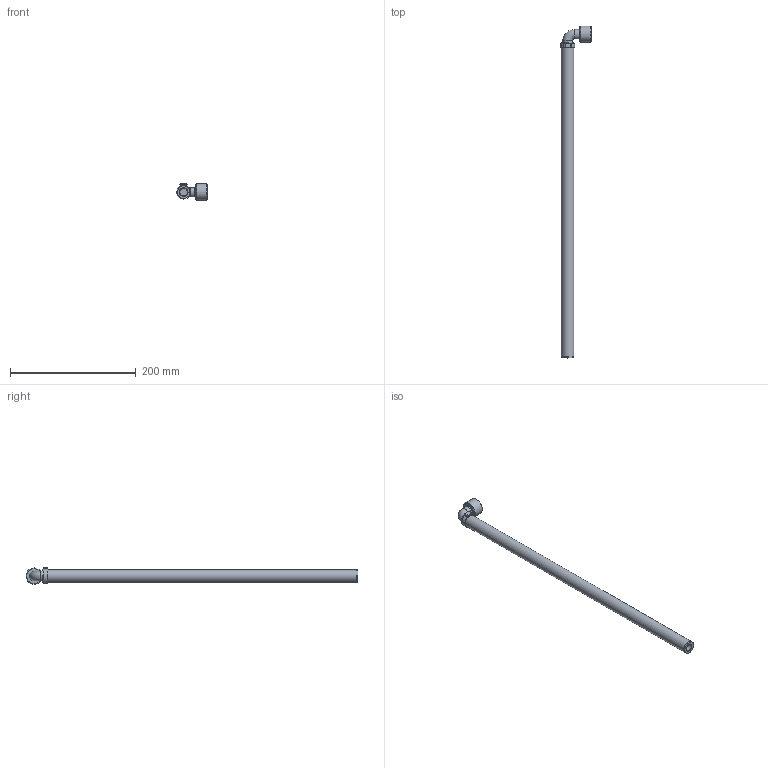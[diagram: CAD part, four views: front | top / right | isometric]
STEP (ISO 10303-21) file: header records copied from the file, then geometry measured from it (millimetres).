
FILE_DESCRIPTION( ( 'STEP AP203' ), '1' );
FILE_NAME( 'C:/Temp/Ganter_Step_05_03_2020/data/3_5/gn880_1/gn880_1_ans_abl/gn_880_1_c/Connector piece with drain hose GN 880.1-22-C-500-T.stp', '2020-03-12T13:42:33', ( 'License CC BY-ND 4.0' ), ( 'CADENAS' ), ' ', 'PARTsolutions', ' ' );
FILE_SCHEMA( ( 'CONFIG_CONTROL_DESIGN' ) );
Length unit declared in the file: millimetre
Products named in the file (6): Connector piece with drain hose GN 880.1-22-C-500-T; _Anschlussstueck mit Ablassschlauch GN 880.1-22-C-500-T_a; _Anschlussstueck mit Ablassschlauch GN 880.1-22-C-500-T_s; _Anschlussstueck mit Ablassschlauch GN 880.1-22-C-500-T_dk; _Anschlussstueck mit Ablassschlauch GN 880.1-22-C-500-T_sc; _Anschlussstueck mit Ablassschlauch GN 880.1-22-C-500-T_dk2
Assembly tree (5 placements, depth 2):
  Connector piece with drain hose GN 880.1-22-C-500-T
    _Anschlussstueck mit Ablassschlauch GN 880.1-22-C-500-T_a
    _Anschlussstueck mit Ablassschlauch GN 880.1-22-C-500-T_s
    _Anschlussstueck mit Ablassschlauch GN 880.1-22-C-500-T_dk
    _Anschlussstueck mit Ablassschlauch GN 880.1-22-C-500-T_sc
    _Anschlussstueck mit Ablassschlauch GN 880.1-22-C-500-T_dk2
Bounding box: 48.49 x 527.5 x 26.5 mm (x, y, z)
Volume: 89755.4 mm3; surface area: 64828.7 mm2
Topology: 5 solids, 5 shells, 60 faces, 110 edges, 71 vertices
Faces by surface type: plane 27, cylinder 25, torus 5, cone 3
Full cylindrical faces by diameter (mm): 8.5 x1, 9.5 x1, 10.5 x2, 12 x1, 13 x2, 14 x2, 15 x4, 20 x4, 20.376 x1, 26 x1
Entity records: 1557 total; most frequent: DIRECTION 270, CARTESIAN_POINT 217, ORIENTED_EDGE 162, AXIS2_PLACEMENT_3D 123, EDGE_LOOP 106, FACE_OUTER_BOUND 84, EDGE_CURVE 81, VERTEX_POINT 70
